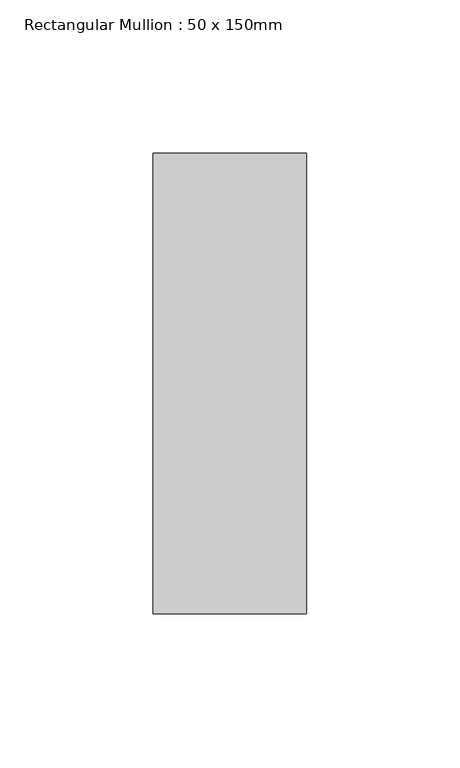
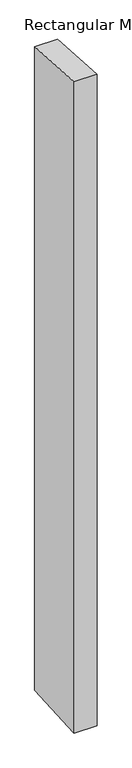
"""IFC4 building model written with IfcOpenShell, lengths in millimetres: member geometry, Rectangular Mullion : 50 x 150mm."""

from ifc_helpers import new_model, si_unit, origin, place, context, project, spatial, faceted_brep, source, transform, mapped, element, save


def rectangular_mullion_50_x_150mm_9946c6b2(model_context):
    return source(origin(), model_context, "Body", "Brep", [
        faceted_brep([(-50.0, 75.0, -4.9343859), (0.0, 75.0, -4.7383811), (0.0, 75.0, -1495.9028479), (-50.0, 75.0, -1495.7333677), (-50.0, -75.0, 4.5423764), (-50.0, -75.0, -1503.927672), (0.0, -75.0, 4.7383811), (0.0, -75.0, -1504.0971521)], [[[0, 1, 2, 3]], [[4, 0, 3, 5]], [[6, 4, 5, 7]], [[1, 6, 7, 2]], [[1, 0, 4, 6]], [[2, 7, 5, 3]]]),
    ])


if __name__ == "__main__":
    model = new_model("IFC4")
    model_context = context("Model", 3, world=origin())
    ifc_project = project(units=[si_unit("LENGTHUNIT", "METRE", prefix="MILLI")], contexts=[model_context])
    site = spatial("IfcSite", under=ifc_project)
    building = spatial("IfcBuilding", under=site)
    placement = place(None, origin())
    rectangular_mullion_50_x_150mm_shape = rectangular_mullion_50_x_150mm_9946c6b2(model_context)
    element("IfcMember", 1, ObjectType="Rectangular Mullion : 50 x 150mm", at=placement, inside=building, context=model_context, shape_type="MappedRepresentation", body=[
        mapped(rectangular_mullion_50_x_150mm_shape, transform((0.0, 0.0, 0.0), x_axis=(1.0, 0.0, 0.0), y_axis=(0.0, 1.0, 0.0), z_axis=(0.0, 0.0, 1.0))),
    ])
    save(model, "model.ifc")
